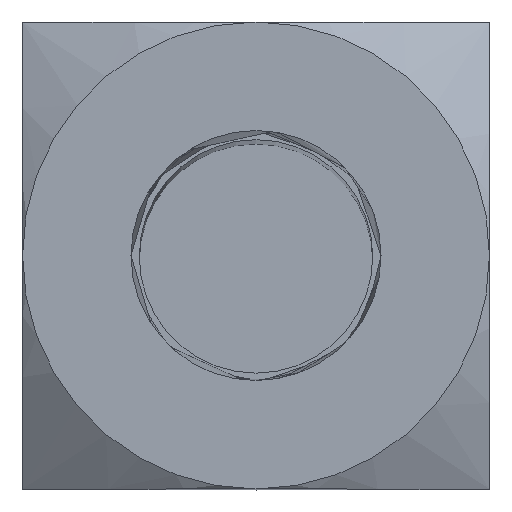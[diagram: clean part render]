
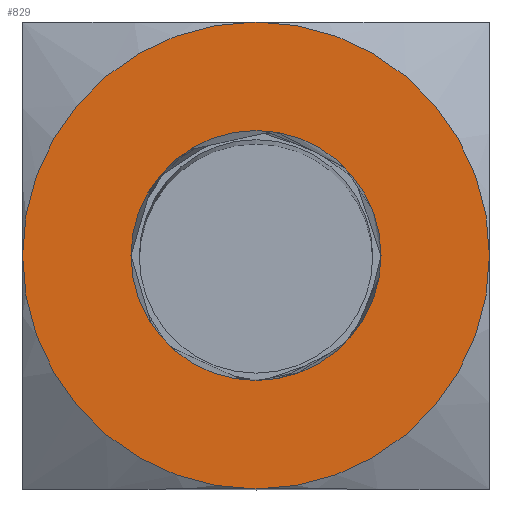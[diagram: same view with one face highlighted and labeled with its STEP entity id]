
A CAD part, top view. The second image highlights one B-rep face of the part: STEP entity #829.
In plain terms, the highlighted planar face has unit normal (0, 0, 1).
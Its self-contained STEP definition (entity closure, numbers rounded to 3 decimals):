
#407=CARTESIAN_POINT('',(0.0,8.0,20.0));
#408=VERTEX_POINT('',#407);
#461=CARTESIAN_POINT('',(-8.0,0.,20.0));
#462=VERTEX_POINT('',#461);
#560=CARTESIAN_POINT('',(4.283,0.,20.0));
#561=VERTEX_POINT('',#560);
#562=CARTESIAN_POINT('',(0.,0.,20.0));
#563=DIRECTION('',(0.0,0.0,-1.0));
#564=DIRECTION('',(1.0,0.0,0.0));
#565=AXIS2_PLACEMENT_3D('',#562,#563,#564);
#566=CIRCLE('',#565,4.283);
#567=EDGE_CURVE('',#561,#561,#566,.T.);
#664=CARTESIAN_POINT('',(0.,-8.0,20.0));
#665=VERTEX_POINT('',#664);
#679=CARTESIAN_POINT('',(8.0,0.0,20.0));
#680=VERTEX_POINT('',#679);
#694=CARTESIAN_POINT('',(0.0,0.0,20.0));
#695=DIRECTION('',(0.0,0.0,1.0));
#696=DIRECTION('',(1.0,0.0,0.0));
#697=AXIS2_PLACEMENT_3D('',#694,#695,#696);
#698=CIRCLE('',#697,8.);
#699=EDGE_CURVE('',#665,#680,#698,.T.);
#723=CARTESIAN_POINT('',(0.0,0.0,20.0));
#724=DIRECTION('',(0.0,0.0,1.0));
#725=DIRECTION('',(1.0,0.0,0.0));
#726=AXIS2_PLACEMENT_3D('',#723,#724,#725);
#727=CIRCLE('',#726,8.);
#728=EDGE_CURVE('',#462,#665,#727,.T.);
#739=CARTESIAN_POINT('',(0.0,0.0,20.0));
#740=DIRECTION('',(0.0,0.0,1.0));
#741=DIRECTION('',(1.0,0.0,0.0));
#742=AXIS2_PLACEMENT_3D('',#739,#740,#741);
#743=CIRCLE('',#742,8.);
#744=EDGE_CURVE('',#408,#462,#743,.T.);
#756=CARTESIAN_POINT('',(0.0,0.0,20.0));
#757=DIRECTION('',(0.0,0.0,1.0));
#758=DIRECTION('',(1.0,0.0,0.0));
#759=AXIS2_PLACEMENT_3D('',#756,#757,#758);
#760=CIRCLE('',#759,8.);
#761=EDGE_CURVE('',#680,#408,#760,.T.);
#815=CARTESIAN_POINT('',(0.,0.,20.0));
#816=DIRECTION('',(0.0,0.0,1.0));
#817=DIRECTION('',(1.0,0.0,0.0));
#818=AXIS2_PLACEMENT_3D('',#815,#816,#817);
#819=PLANE('',#818);
#820=ORIENTED_EDGE('',*,*,#761,.T.);
#821=ORIENTED_EDGE('',*,*,#744,.T.);
#822=ORIENTED_EDGE('',*,*,#728,.T.);
#823=ORIENTED_EDGE('',*,*,#699,.T.);
#824=EDGE_LOOP('',(#820,#821,#822,#823));
#825=FACE_OUTER_BOUND('',#824,.T.);
#826=ORIENTED_EDGE('',*,*,#567,.T.);
#827=EDGE_LOOP('',(#826));
#828=FACE_BOUND('',#827,.T.);
#829=ADVANCED_FACE('',(#825,#828),#819,.T.);
